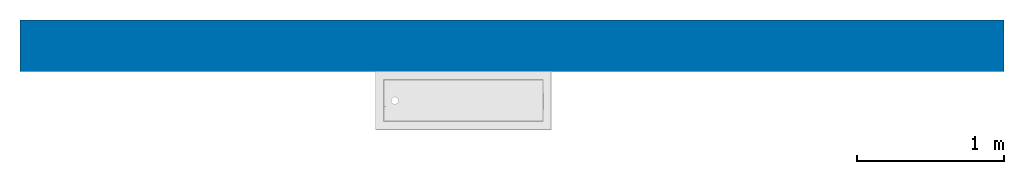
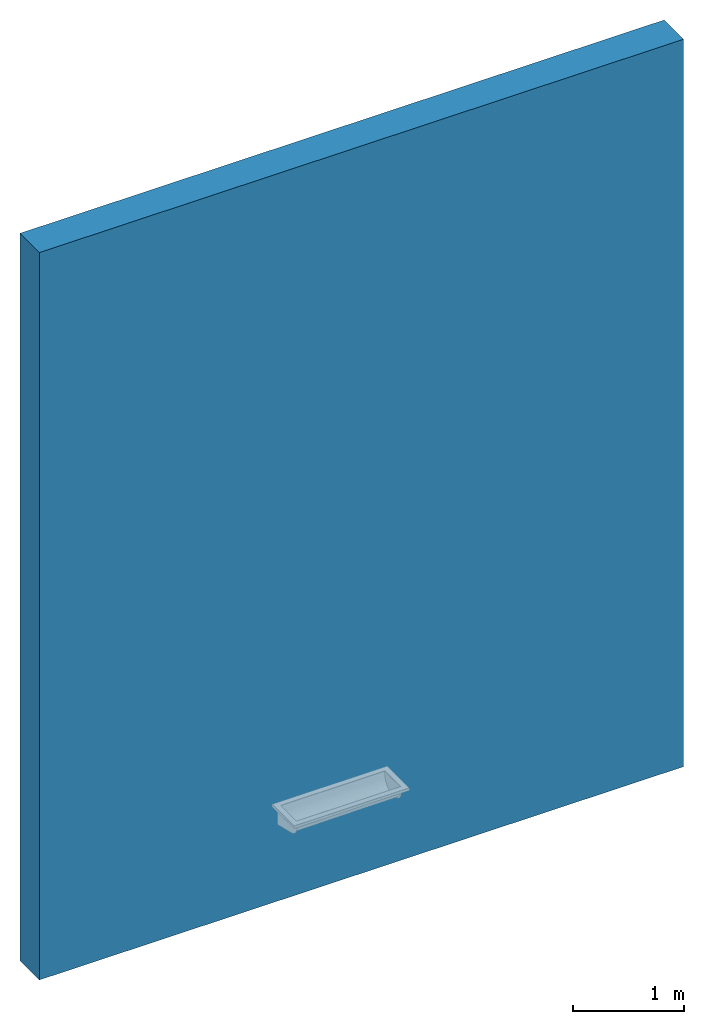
# One storey, incomplete: 1 wall.
"""IFC2X3 building model written with IfcOpenShell, lengths in millimetres."""

from ifc_helpers import new_model, entity, si_unit, converted_unit, frame, frame_2d, origin, place, context, project, spatial, rectangle, extrude, material, layer, layer_set, layer_usage, element, save


model = new_model("IFC2X3")

# Units and contexts
model_context = context("Model", 3, precision=1e-06, world=origin())
plan_context = context("Plan", 3, precision=1e-06, world=origin())
ifc_project = project(units=[si_unit("LENGTHUNIT", "METRE", prefix="MILLI"), si_unit("AREAUNIT", "SQUARE_METRE", prefix="MILLI"), si_unit("VOLUMEUNIT", "CUBIC_METRE", prefix="MILLI"), converted_unit("PLANEANGLEUNIT", "DEGREE", entity("IfcRatioMeasure", 0.01745329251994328), si_unit("PLANEANGLEUNIT", "RADIAN"), dimensions=[0, 0, 0, 0, 0, 0, 0]), si_unit("TIMEUNIT", "SECOND")], contexts=[model_context, plan_context])

# Site, building, storey
site_placement = place(None, origin())
site = spatial("IfcSite", under=ifc_project, at=site_placement, Name="Default", CompositionType="ELEMENT")
building_placement = place(site_placement, origin())
building = spatial("IfcBuilding", under=site, at=building_placement, CompositionType="ELEMENT")
storey_placement = place(building_placement, origin())
storey = spatial("IfcBuildingStorey", under=building, at=storey_placement, Name="Level 1", CompositionType="ELEMENT", Elevation=0.0)

# Wall
ifc_material_1 = material(Name="Masonry - Brick")
ifc_layer_1 = layer(ifc_material_1, 90.0)
ifc_material_2 = material(Name="Misc. Air Layers - Air Space")
ifc_layer_2 = layer(ifc_material_2, 76.0)
ifc_material_3 = material(Name="Wood - Sheathing - plywood")
ifc_layer_3 = layer(ifc_material_3, 19.0)
ifc_material_4 = material(Name="Metal - Stud Layer")
ifc_layer_4 = layer(ifc_material_4, 152.0)
ifc_material_5 = material(Name="Plasterboard")
ifc_layer_5 = layer(ifc_material_5, 13.0)
ifc_layer_set = layer_set([ifc_layer_1, ifc_layer_2, ifc_layer_3, ifc_layer_4, ifc_layer_5], Name="Basic Wall:Exterior - Brick on Mtl. Stud")
ifc_layer_usage = layer_usage(ifc_layer_set, "AXIS2", "NEGATIVE", 175.0)
wall_placement = place(storey_placement, frame((-3837.028205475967, -67.30833129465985, 0.0)))
element("IfcWallStandardCase", 1, at=wall_placement, inside=storey, material=ifc_layer_usage, Name="Basic Wall:Exterior - Brick on Mtl. Stud", ObjectType="Basic Wall:Exterior - Brick on Mtl. Stud:397", context=model_context, shape_type="SweptSolid", body=[
    extrude(rectangle(XDim=6700.0, YDim=350.0, at=frame_2d((3350.0, 0.0), x_axis=(-1.0, 0.0))), origin(), (0.0, 0.0, 1.0), 8000.000000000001),
])

save(model, "model.ifc")
